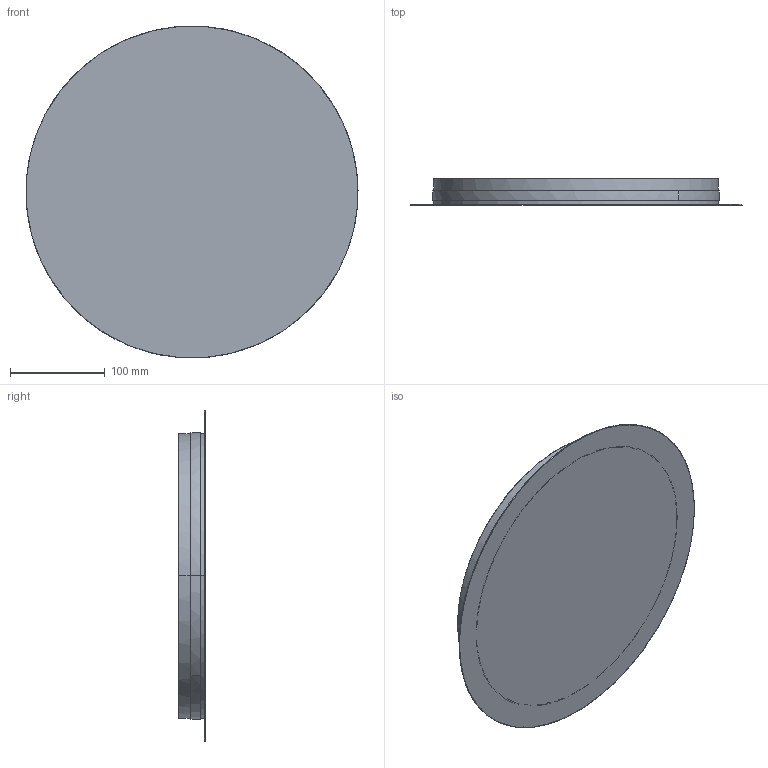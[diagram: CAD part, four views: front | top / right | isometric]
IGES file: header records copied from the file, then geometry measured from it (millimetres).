
Start section: SolidWorks IGES file using NURBS representation for surfaces
Global section: file name: Z:\Modele 3D_WWW\_KOLEKCJE_WWW\RING-LED\RING-LED-L-7636-7640\RING-LED-L-7636-7640.IGS; native system: SolidWorks 2021; preprocessor: SolidWorks 2021; author: gabriela.tworek; date: 211117.135222; units: millimetre
Bounding box: 349.99 x 27.8 x 349.99 mm (x, y, z)
Surface area: 265242.2 mm2 (no closed solid volume)
Topology: 0 solids, 0 shells, 20 faces, 700 edges, 700 vertices
Faces by surface type: bspline 20
